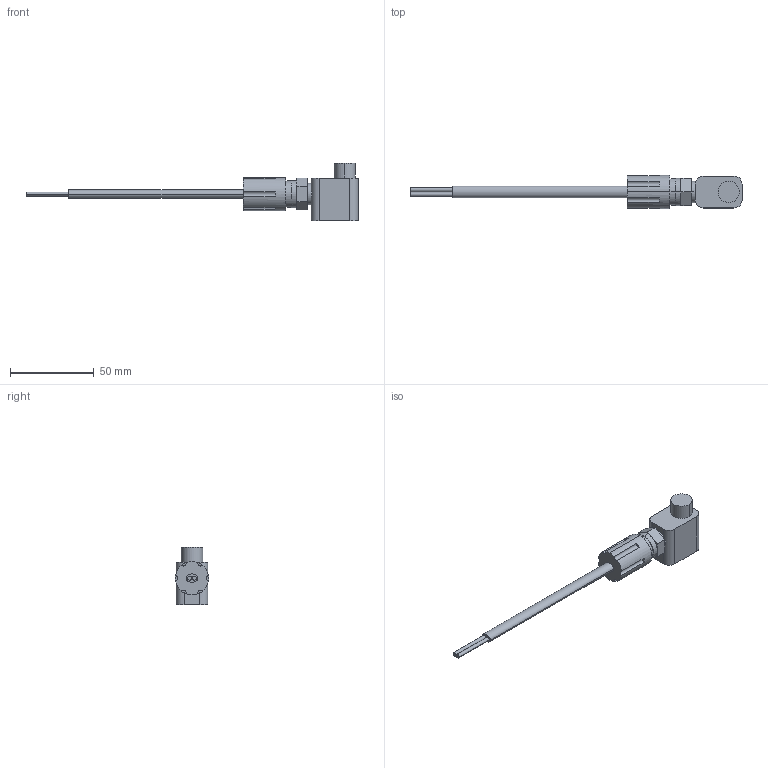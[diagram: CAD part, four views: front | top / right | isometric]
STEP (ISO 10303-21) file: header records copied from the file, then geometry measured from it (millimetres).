
FILE_DESCRIPTION (( 'STEP AP214' ), '1' );
FILE_NAME ('Fitting Leak Detect with Elbow.STEP', '2012-09-21T17:19:50', ( '' ), ( '' ), 'SwSTEP 2.0', 'SolidWorks 2012', '' );
FILE_SCHEMA (( 'AUTOMOTIVE_DESIGN' ));
Length unit declared in the file: inch
Products named in the file (1): Fitting Leak Detect with Elbow
Bounding box: 198.04 x 19.81 x 34.29 mm (x, y, z)
Volume: 27654.7 mm3; surface area: 8771.5 mm2
Topology: 1 solids, 1 shells, 66 faces, 160 edges, 102 vertices
Faces by surface type: plane 36, cylinder 26, bspline 2, cone 2
Entity records: 2623 total; most frequent: CARTESIAN_POINT 449, DIRECTION 360, ORIENTED_EDGE 320, EDGE_CURVE 160, AXIS2_PLACEMENT_3D 141, VERTEX_POINT 102, VECTOR 78, LINE 78
